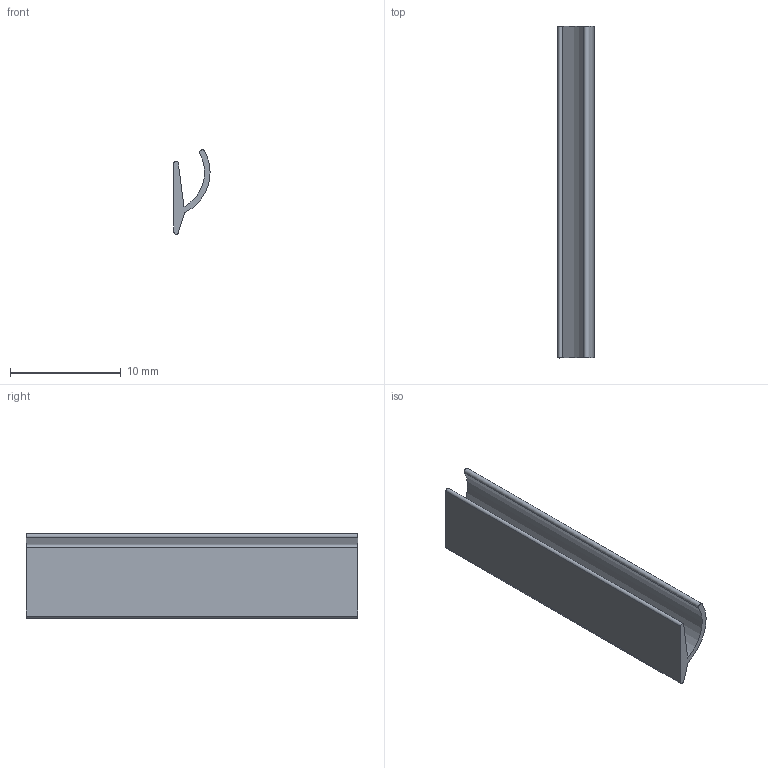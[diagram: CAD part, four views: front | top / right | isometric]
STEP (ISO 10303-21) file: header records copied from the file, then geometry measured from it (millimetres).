
FILE_DESCRIPTION (( 'STEP AP214' ), '1' );
FILE_NAME ('F50150.step', '2024-12-03T16:17:41', ( '' ), ( '' ), 'SwSTEP 2.0', 'SolidWorks 2023', '' );
FILE_SCHEMA (( 'AUTOMOTIVE_DESIGN' ));
Length unit declared in the file: millimetre
Products named in the file (1): F50150
Bounding box: 3.27 x 30 x 7.64 mm (x, y, z)
Volume: 226.2 mm3; surface area: 800.4 mm2
Topology: 1 solids, 1 shells, 10 faces, 24 edges, 16 vertices
Faces by surface type: cylinder 5, plane 5
Entity records: 321 total; most frequent: DIRECTION 56, CARTESIAN_POINT 51, ORIENTED_EDGE 48, EDGE_CURVE 24, AXIS2_PLACEMENT_3D 21, VERTEX_POINT 16, VECTOR 14, LINE 14
